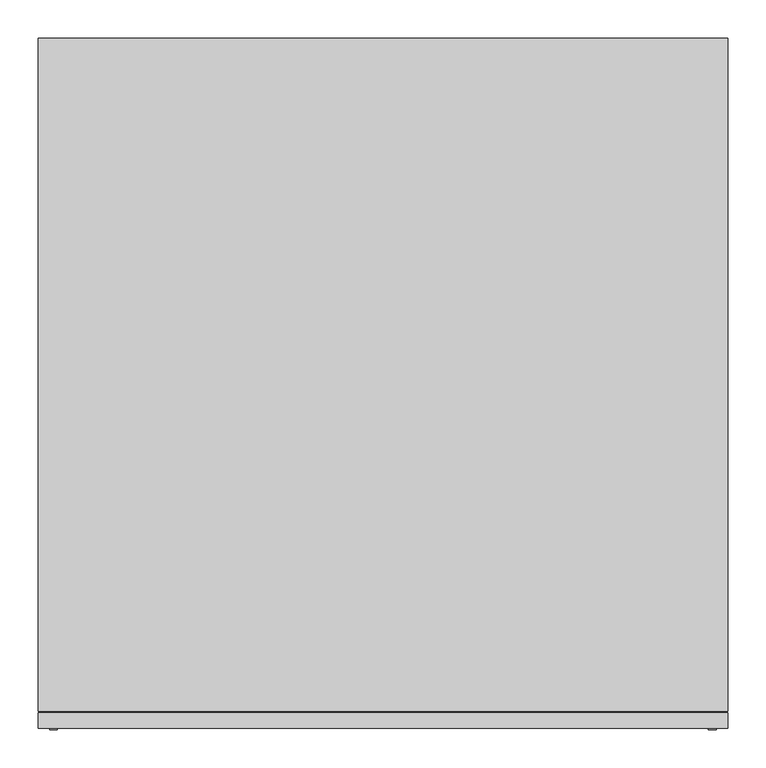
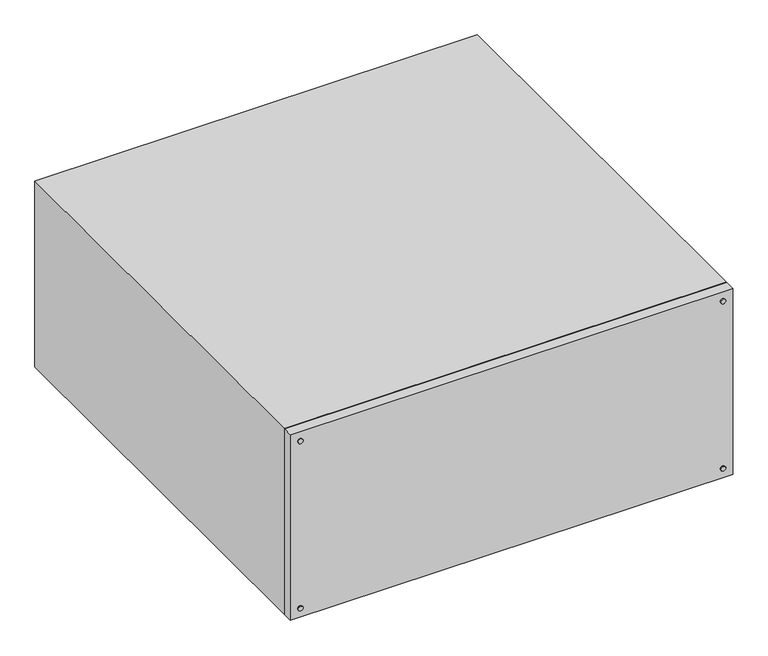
"""IFC4 building model written with IfcOpenShell, lengths in millimetres: proxy geometry, 20206_プルボックス_大_強電用 : 幹線設備."""

from ifc_helpers import new_model, si_unit, point, frame, frame_2d, origin, place, context, project, spatial, circle_curve, trimmed, segment, composite_curve, outline, extrude, faceted_brep, source, transform, mapped, element, save


def electrical_fixtures_588b28f3(model_context):
    return source(origin(), model_context, "Body", "SolidModel", [
        extrude(outline(composite_curve([segment(trimmed(circle_curve(frame_2d((380.0, -430.0)), 5.0), [point((380.0, -425.0))], [point((380.0, -435.0))], False, "CARTESIAN"), True, "CONTINUOUS"), segment(trimmed(circle_curve(frame_2d((380.0, -430.0)), 5.0), [point((380.0, -435.0))], [point((380.0, -425.0))], False, "CARTESIAN"), True, "CONTINUOUS")], self_intersect=False)), frame((0.0, -452.0, 0.0), z_axis=(0.0, 1.0, 0.0), x_axis=(0.0, 0.0, 1.0)), (0.0, 0.0, 1.0), 2.0),
        extrude(outline(composite_curve([segment(trimmed(circle_curve(frame_2d((380.0, 430.0)), 5.0), [point((380.0, 435.0))], [point((380.0, 425.0))], False, "CARTESIAN"), True, "CONTINUOUS"), segment(trimmed(circle_curve(frame_2d((380.0, 430.0)), 5.0), [point((380.0, 425.0))], [point((380.0, 435.0))], False, "CARTESIAN"), True, "CONTINUOUS")], self_intersect=False)), frame((0.0, -452.0, 0.0), z_axis=(0.0, 1.0, 0.0), x_axis=(0.0, 0.0, 1.0)), (0.0, 0.0, 1.0), 2.0),
        extrude(outline(composite_curve([segment(trimmed(circle_curve(frame_2d((20.0, -430.0)), 5.0), [point((20.0, -425.0))], [point((20.0, -435.0))], False, "CARTESIAN"), True, "CONTINUOUS"), segment(trimmed(circle_curve(frame_2d((20.0, -430.0)), 5.0), [point((20.0, -435.0))], [point((20.0, -425.0))], False, "CARTESIAN"), True, "CONTINUOUS")], self_intersect=False)), frame((0.0, -452.0, 0.0), z_axis=(0.0, 1.0, 0.0), x_axis=(0.0, 0.0, 1.0)), (0.0, 0.0, 1.0), 2.0),
        extrude(outline(composite_curve([segment(trimmed(circle_curve(frame_2d((20.0, 430.0)), 5.0), [point((20.0, 435.0))], [point((20.0, 425.0))], False, "CARTESIAN"), True, "CONTINUOUS"), segment(trimmed(circle_curve(frame_2d((20.0, 430.0)), 5.0), [point((20.0, 425.0))], [point((20.0, 435.0))], False, "CARTESIAN"), True, "CONTINUOUS")], self_intersect=False)), frame((0.0, -452.0, 0.0), z_axis=(0.0, 1.0, 0.0), x_axis=(0.0, 0.0, 1.0)), (0.0, 0.0, 1.0), 2.0),
        faceted_brep([(450.0, 450.0, 400.0), (-450.0, 450.0, 400.0), (-450.0, -428.1279995, 400.0), (450.0, -428.1279995, 400.0), (-450.0, -450.0, 400.0), (450.0, -450.0, 400.0), (450.0, -430.1279995, 400.0), (-450.0, -430.1279995, 400.0), (450.0, -450.0, 0.0), (-450.0, -450.0, 0.0), (-450.0, -430.1279995, 0.0), (450.0, -430.1279995, 0.0), (-450.0, 450.0, 0.0), (450.0, 450.0, 0.0), (450.0, -428.1279995, 0.0), (-450.0, -428.1279995, 0.0), (448.0, -430.1279995, 398.0), (448.0, -430.1279995, 2.0), (448.0, -428.1279995, 2.0), (448.0, -428.1279995, 398.0), (-448.0, -430.1279995, 2.0), (-448.0, -428.1279995, 2.0), (-448.0, -430.1279995, 398.0), (-448.0, -428.1279995, 398.0)], [[[0, 1, 2, 3]], [[4, 5, 6, 7]], [[8, 9, 10, 11]], [[12, 13, 14, 15]], [[1, 0, 13, 12]], [[1, 12, 15, 2]], [[9, 4, 7, 10]], [[5, 4, 9, 8]], [[13, 0, 3, 14]], [[5, 8, 11, 6]], [[16, 17, 18, 19]], [[18, 17, 20, 21]], [[21, 20, 22, 23]], [[3, 2, 15, 14], [19, 18, 21, 23]], [[16, 19, 23, 22]], [[7, 6, 11, 10], [17, 16, 22, 20]]]),
    ])


if __name__ == "__main__":
    model = new_model("IFC4")
    model_context = context("Model", 3, world=origin())
    ifc_project = project(units=[si_unit("LENGTHUNIT", "METRE", prefix="MILLI")], contexts=[model_context])
    site = spatial("IfcSite", under=ifc_project)
    building = spatial("IfcBuilding", under=site)
    placement = place(None, origin())
    electrical_fixtures_shape = electrical_fixtures_588b28f3(model_context)
    element("IfcBuildingElementProxy", 1, Name="20206_プルボックス_大_強電用 : 幹線設備", ObjectType="20206_プルボックス_大_強電用 : 幹線設備", at=placement, inside=building, context=model_context, shape_type="MappedRepresentation", body=[
        mapped(electrical_fixtures_shape, transform((0.0, 0.0, 0.0), x_axis=(1.0, 0.0, 0.0), y_axis=(0.0, 1.0, 0.0), z_axis=(0.0, 0.0, 1.0))),
    ])
    save(model, "model.ifc")
